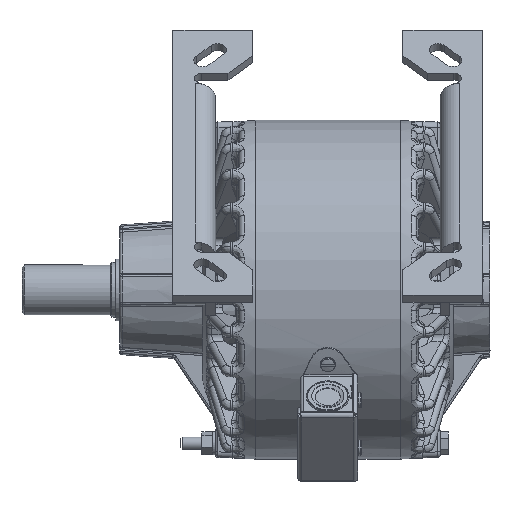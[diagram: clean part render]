
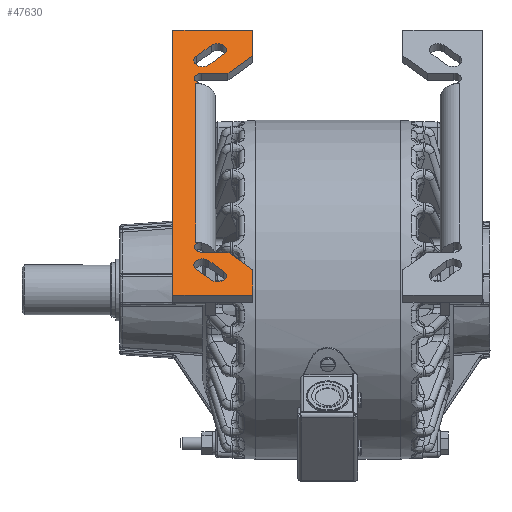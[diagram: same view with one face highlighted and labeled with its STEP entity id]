
A CAD part, left-side view. The second image highlights one B-rep face of the part: STEP entity #47630.
In plain terms, the highlighted planar face has unit normal (-0.707, 0, 0.707).
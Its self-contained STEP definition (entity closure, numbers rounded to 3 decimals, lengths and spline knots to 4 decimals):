
#4127=FACE_BOUND('',#8882,.T.);
#4128=FACE_BOUND('',#8883,.T.);
#4360=PLANE('',#50817);
#5762=FACE_OUTER_BOUND('',#8881,.T.);
#8881=EDGE_LOOP('',(#32178,#32179,#32180,#32181,#32182,#32183,#32184,#32185,
#32186,#32187,#32188,#32189,#32190,#32191));
#8882=EDGE_LOOP('',(#32192,#32193,#32194,#32195));
#8883=EDGE_LOOP('',(#32196,#32197,#32198,#32199));
#12164=LINE('',#69382,#14160);
#12169=LINE('',#69395,#14165);
#12172=LINE('',#69403,#14168);
#12177=LINE('',#69416,#14173);
#12228=LINE('',#69527,#14224);
#12236=LINE('',#69553,#14232);
#12239=LINE('',#69559,#14235);
#12242=LINE('',#69565,#14238);
#12245=LINE('',#69571,#14241);
#12248=LINE('',#69577,#14244);
#12251=LINE('',#69583,#14247);
#12254=LINE('',#69589,#14250);
#12257=LINE('',#69595,#14253);
#12260=LINE('',#69601,#14256);
#12264=LINE('',#69611,#14260);
#12265=LINE('',#69613,#14261);
#14160=VECTOR('',#56449,39.3701);
#14165=VECTOR('',#56462,39.3701);
#14168=VECTOR('',#56467,39.3701);
#14173=VECTOR('',#56480,39.3701);
#14224=VECTOR('',#56563,39.3701);
#14232=VECTOR('',#56591,39.3701);
#14235=VECTOR('',#56596,39.3701);
#14238=VECTOR('',#56601,39.3701);
#14241=VECTOR('',#56606,39.3701);
#14244=VECTOR('',#56611,39.3701);
#14247=VECTOR('',#56616,39.3701);
#14250=VECTOR('',#56621,39.3701);
#14253=VECTOR('',#56626,39.3701);
#14256=VECTOR('',#56631,39.3701);
#14260=VECTOR('',#56643,39.3701);
#14261=VECTOR('',#56646,39.3701);
#16082=CIRCLE('',#50771,0.219);
#16084=CIRCLE('',#50776,0.219);
#16092=CIRCLE('',#50801,0.18);
#16094=CIRCLE('',#50813,0.18);
#16096=CIRCLE('',#50818,0.219);
#16097=CIRCLE('',#50819,0.219);
#19372=VERTEX_POINT('',#69379);
#19373=VERTEX_POINT('',#69381);
#19375=VERTEX_POINT('',#69387);
#19377=VERTEX_POINT('',#69393);
#19380=VERTEX_POINT('',#69400);
#19381=VERTEX_POINT('',#69402);
#19383=VERTEX_POINT('',#69408);
#19385=VERTEX_POINT('',#69414);
#19428=VERTEX_POINT('',#69525);
#19429=VERTEX_POINT('',#69526);
#19434=VERTEX_POINT('',#69544);
#19435=VERTEX_POINT('',#69545);
#19437=VERTEX_POINT('',#69552);
#19439=VERTEX_POINT('',#69558);
#19441=VERTEX_POINT('',#69564);
#19443=VERTEX_POINT('',#69570);
#19445=VERTEX_POINT('',#69576);
#19447=VERTEX_POINT('',#69582);
#19449=VERTEX_POINT('',#69588);
#19451=VERTEX_POINT('',#69594);
#19453=VERTEX_POINT('',#69600);
#19455=VERTEX_POINT('',#69606);
#24124=EDGE_CURVE('',#19372,#19373,#12164,.T.);
#24128=EDGE_CURVE('',#19375,#19372,#16082,.T.);
#24131=EDGE_CURVE('',#19377,#19375,#12169,.T.);
#24134=EDGE_CURVE('',#19381,#19380,#12172,.T.);
#24138=EDGE_CURVE('',#19380,#19383,#16084,.T.);
#24141=EDGE_CURVE('',#19383,#19385,#12177,.T.);
#24195=EDGE_CURVE('',#19428,#19429,#12228,.T.);
#24205=EDGE_CURVE('',#19434,#19435,#16092,.T.);
#24209=EDGE_CURVE('',#19437,#19434,#12236,.T.);
#24212=EDGE_CURVE('',#19439,#19437,#12239,.T.);
#24215=EDGE_CURVE('',#19441,#19439,#12242,.T.);
#24218=EDGE_CURVE('',#19443,#19441,#12245,.T.);
#24221=EDGE_CURVE('',#19445,#19443,#12248,.T.);
#24224=EDGE_CURVE('',#19447,#19445,#12251,.T.);
#24227=EDGE_CURVE('',#19449,#19447,#12254,.T.);
#24230=EDGE_CURVE('',#19451,#19449,#12257,.T.);
#24233=EDGE_CURVE('',#19453,#19451,#12260,.T.);
#24236=EDGE_CURVE('',#19455,#19453,#16094,.T.);
#24239=EDGE_CURVE('',#19435,#19429,#12264,.T.);
#24240=EDGE_CURVE('',#19428,#19455,#12265,.T.);
#24241=EDGE_CURVE('',#19385,#19381,#16096,.T.);
#24242=EDGE_CURVE('',#19373,#19377,#16097,.T.);
#32178=ORIENTED_EDGE('',*,*,#24240,.F.);
#32179=ORIENTED_EDGE('',*,*,#24195,.T.);
#32180=ORIENTED_EDGE('',*,*,#24239,.F.);
#32181=ORIENTED_EDGE('',*,*,#24205,.F.);
#32182=ORIENTED_EDGE('',*,*,#24209,.F.);
#32183=ORIENTED_EDGE('',*,*,#24212,.F.);
#32184=ORIENTED_EDGE('',*,*,#24215,.F.);
#32185=ORIENTED_EDGE('',*,*,#24218,.F.);
#32186=ORIENTED_EDGE('',*,*,#24221,.F.);
#32187=ORIENTED_EDGE('',*,*,#24224,.F.);
#32188=ORIENTED_EDGE('',*,*,#24227,.F.);
#32189=ORIENTED_EDGE('',*,*,#24230,.F.);
#32190=ORIENTED_EDGE('',*,*,#24233,.F.);
#32191=ORIENTED_EDGE('',*,*,#24236,.F.);
#32192=ORIENTED_EDGE('',*,*,#24141,.T.);
#32193=ORIENTED_EDGE('',*,*,#24241,.T.);
#32194=ORIENTED_EDGE('',*,*,#24134,.T.);
#32195=ORIENTED_EDGE('',*,*,#24138,.T.);
#32196=ORIENTED_EDGE('',*,*,#24242,.F.);
#32197=ORIENTED_EDGE('',*,*,#24124,.F.);
#32198=ORIENTED_EDGE('',*,*,#24128,.F.);
#32199=ORIENTED_EDGE('',*,*,#24131,.F.);
#47630=ADVANCED_FACE('',(#5762,#4127,#4128),#4360,.F.);
#50771=AXIS2_PLACEMENT_3D('',#69389,#56456,#56457);
#50776=AXIS2_PLACEMENT_3D('',#69410,#56474,#56475);
#50801=AXIS2_PLACEMENT_3D('',#69546,#56583,#56584);
#50813=AXIS2_PLACEMENT_3D('',#69607,#56636,#56637);
#50817=AXIS2_PLACEMENT_3D('',#69614,#56647,#56648);
#50818=AXIS2_PLACEMENT_3D('',#69615,#56649,#56650);
#50819=AXIS2_PLACEMENT_3D('',#69616,#56651,#56652);
#56449=DIRECTION('',(0.5,0.707,0.5));
#56456=DIRECTION('center_axis',(-0.707,0.,
0.707));
#56457=DIRECTION('ref_axis',(0.,1.,0.));
#56462=DIRECTION('',(-0.5,-0.707,-0.5));
#56467=DIRECTION('',(0.5,-0.707,0.5));
#56474=DIRECTION('center_axis',(0.707,0.,
-0.707));
#56475=DIRECTION('ref_axis',(0.,1.,0.));
#56480=DIRECTION('',(-0.5,0.707,-0.5));
#56563=DIRECTION('',(0.707,0.,0.707));
#56583=DIRECTION('center_axis',(-0.707,0.,
0.707));
#56584=DIRECTION('ref_axis',(0.,1.,0.));
#56591=DIRECTION('',(0.,1.,0.));
#56596=DIRECTION('',(-0.5,0.707,-0.5));
#56601=DIRECTION('',(-0.707,0.,-0.707));
#56606=DIRECTION('',(0.,-1.,0.));
#56611=DIRECTION('',(0.707,0.,0.707));
#56616=DIRECTION('',(0.,1.,0.));
#56621=DIRECTION('',(-0.707,0.,-0.707));
#56626=DIRECTION('',(-0.5,-0.707,-0.5));
#56631=DIRECTION('',(0.,-1.,0.));
#56636=DIRECTION('center_axis',(-0.707,0.,
0.707));
#56637=DIRECTION('ref_axis',(0.,1.,0.));
#56643=DIRECTION('',(0.,1.,0.));
#56646=DIRECTION('',(0.,-1.,0.));
#56647=DIRECTION('center_axis',(0.707,0.,
-0.707));
#56648=DIRECTION('ref_axis',(0.,1.,0.));
#56649=DIRECTION('center_axis',(0.707,0.,
-0.707));
#56650=DIRECTION('ref_axis',(0.,1.,0.));
#56651=DIRECTION('center_axis',(-0.707,0.,
0.707));
#56652=DIRECTION('ref_axis',(0.,1.,0.));
#69379=CARTESIAN_POINT('',(-5.8974,4.4181,0.4634));
#69381=CARTESIAN_POINT('',(-5.6322,4.7931,0.7286));
#69382=CARTESIAN_POINT('',(-5.6322,4.7931,0.7286));
#69387=CARTESIAN_POINT('',(-6.1164,4.7279,0.2444));
#69389=CARTESIAN_POINT('Origin',(-6.0069,4.573,0.3539));
#69393=CARTESIAN_POINT('',(-5.8512,5.1029,0.5096));
#69395=CARTESIAN_POINT('',(-5.8512,5.1029,0.5096));
#69400=CARTESIAN_POINT('',(-0.2405,4.7279,6.1203));
#69402=CARTESIAN_POINT('',(-0.5057,5.1029,5.8551));
#69403=CARTESIAN_POINT('',(-0.5057,5.1029,5.8551));
#69408=CARTESIAN_POINT('',(-0.4595,4.4181,5.9013));
#69410=CARTESIAN_POINT('Origin',(-0.35,4.573,6.0108));
#69414=CARTESIAN_POINT('',(-0.7247,4.7931,5.6361));
#69416=CARTESIAN_POINT('',(-0.7247,4.7931,5.6361));
#69525=CARTESIAN_POINT('',(-5.1654,5.123,1.1954));
#69526=CARTESIAN_POINT('',(-1.1915,5.123,5.1693));
#69527=CARTESIAN_POINT('',(-5.1654,5.123,1.1954));
#69544=CARTESIAN_POINT('',(-0.9369,4.973,5.4239));
#69545=CARTESIAN_POINT('',(-1.1915,4.973,5.1693));
#69546=CARTESIAN_POINT('Origin',(-1.0642,4.973,5.2966));
#69552=CARTESIAN_POINT('',(-0.9369,4.313,5.4239));
#69553=CARTESIAN_POINT('',(-0.9369,4.973,5.4239));
#69558=CARTESIAN_POINT('',(-0.4985,3.693,5.8623));
#69559=CARTESIAN_POINT('',(-0.9369,4.313,5.4239));
#69564=CARTESIAN_POINT('',(0.1379,3.693,6.4987));
#69565=CARTESIAN_POINT('',(-0.4985,3.693,5.8623));
#69570=CARTESIAN_POINT('',(0.1379,5.693,6.4987));
#69571=CARTESIAN_POINT('',(0.1379,3.693,6.4987));
#69576=CARTESIAN_POINT('',(-6.4948,5.693,-0.134));
#69577=CARTESIAN_POINT('',(0.1379,5.693,6.4987));
#69582=CARTESIAN_POINT('',(-6.4948,3.693,-0.134));
#69583=CARTESIAN_POINT('',(-6.4948,5.693,-0.134));
#69588=CARTESIAN_POINT('',(-5.8584,3.693,0.5024));
#69589=CARTESIAN_POINT('',(-6.4948,3.693,-0.134));
#69594=CARTESIAN_POINT('',(-5.42,4.313,0.9408));
#69595=CARTESIAN_POINT('',(-5.8584,3.693,0.5024));
#69600=CARTESIAN_POINT('',(-5.42,4.973,0.9408));
#69601=CARTESIAN_POINT('',(-5.42,4.313,0.9408));
#69606=CARTESIAN_POINT('',(-5.1654,4.973,1.1954));
#69607=CARTESIAN_POINT('Origin',(-5.2927,4.973,1.0681));
#69611=CARTESIAN_POINT('',(-1.1915,4.973,5.1693));
#69613=CARTESIAN_POINT('',(-5.1654,4.973,1.1954));
#69614=CARTESIAN_POINT('Origin',(-1.0642,4.973,5.2966));
#69615=CARTESIAN_POINT('Origin',(-0.6152,4.948,5.7456));
#69616=CARTESIAN_POINT('Origin',(-5.7417,4.948,0.6191));
